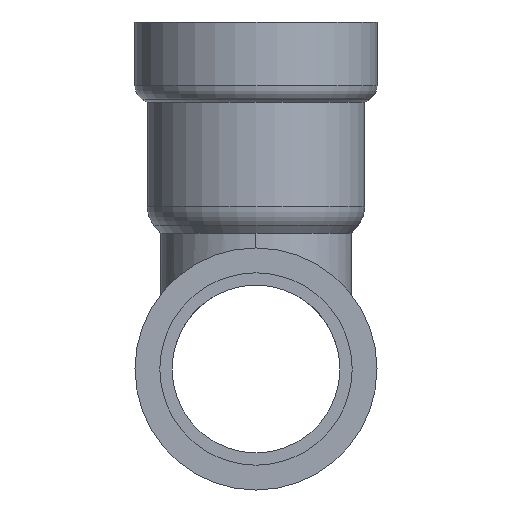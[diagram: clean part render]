
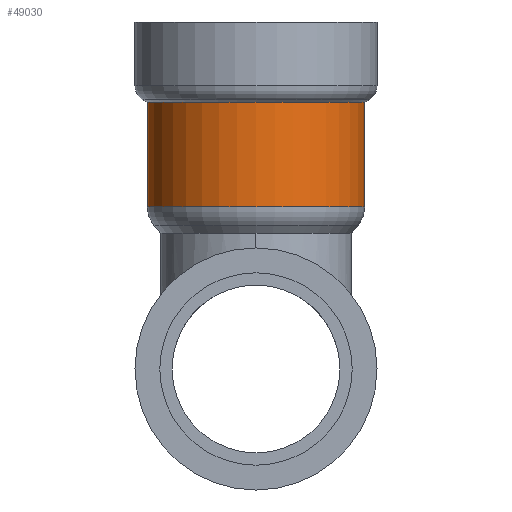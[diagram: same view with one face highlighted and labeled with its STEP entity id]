
A CAD part, left-side view. The second image highlights one B-rep face of the part: STEP entity #49030.
In plain terms, the highlighted cylindrical face has radius 27.85 mm (diameter 55.7 mm), a partial arc.
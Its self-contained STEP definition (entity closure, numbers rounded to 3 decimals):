
#48140=CARTESIAN_POINT('',(107.424,92.679,68.384))
;
#48150=VERTEX_POINT('',#48140);
#48330=CARTESIAN_POINT('',(107.424,36.979,68.384))
;
#48340=VERTEX_POINT('',#48330);
#48370=CARTESIAN_POINT('',(107.424,64.829,68.384))
;
#48380=DIRECTION('',(0.,0.,-1.));
#48390=DIRECTION('',(0.,1.,0.));
#48400=AXIS2_PLACEMENT_3D('',#48370,#48380,#48390);
#48410=CIRCLE('',#48400,27.85);
#48420=EDGE_CURVE('',#48340,#48150,#48410,.T.);
#48720=CARTESIAN_POINT('',(107.424,64.829,68.271))
;
#48730=DIRECTION('',(0.,0.,1.));
#48740=DIRECTION('',(0.,1.,0.));
#48750=AXIS2_PLACEMENT_3D('',#48720,#48730,#48740);
#48760=CYLINDRICAL_SURFACE('',#48750,27.85);
#48770=CARTESIAN_POINT('',(107.424,36.979,68.271))
;
#48780=DIRECTION('',(0.,0.,1.));
#48790=VECTOR('',#48780,1.);
#48800=LINE('',#48770,#48790);
#48810=CARTESIAN_POINT('',(107.424,36.979,41.505))
;
#48820=VERTEX_POINT('',#48810);
#48830=EDGE_CURVE('',#48820,#48340,#48800,.T.);
#48840=ORIENTED_EDGE('',*,*,#48830,.T.);
#48850=CARTESIAN_POINT('',(107.424,64.829,41.505))
;
#48860=DIRECTION('',(0.,0.,1.));
#48870=DIRECTION('',(0.,-1.,0.));
#48880=AXIS2_PLACEMENT_3D('',#48850,#48860,#48870);
#48890=CIRCLE('',#48880,27.85);
#48900=CARTESIAN_POINT('',(107.424,92.679,41.505))
;
#48910=VERTEX_POINT('',#48900);
#48920=EDGE_CURVE('',#48910,#48820,#48890,.T.);
#48930=ORIENTED_EDGE('',*,*,#48920,.T.);
#48940=CARTESIAN_POINT('',(107.424,92.679,68.271))
;
#48950=DIRECTION('',(0.,0.,1.));
#48960=VECTOR('',#48950,1.);
#48970=LINE('',#48940,#48960);
#48980=EDGE_CURVE('',#48910,#48150,#48970,.T.);
#48990=ORIENTED_EDGE('',*,*,#48980,.F.);
#49000=ORIENTED_EDGE('',*,*,#48420,.T.);
#49010=EDGE_LOOP('',(#49000,#48990,#48930,#48840));
#49020=FACE_OUTER_BOUND('',#49010,.T.);
#49030=ADVANCED_FACE('',(#49020),#48760,.T.);
